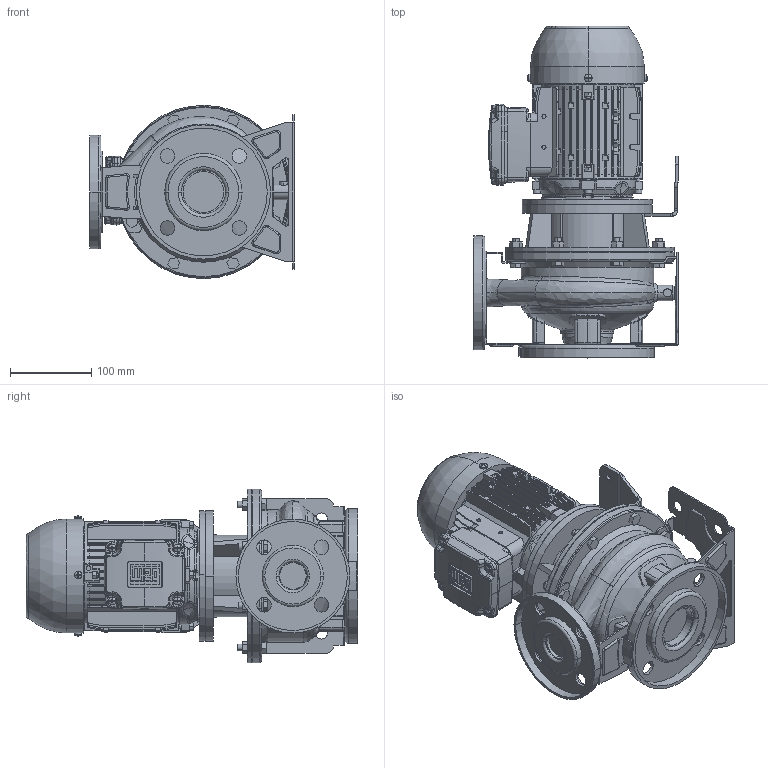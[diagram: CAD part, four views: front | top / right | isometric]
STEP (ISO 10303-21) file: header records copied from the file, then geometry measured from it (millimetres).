
FILE_DESCRIPTION (( 'STEP AP214' ), '1' );
FILE_NAME ('3LS4 32-125_0.25_(71)_W21.STEP', '2026-10-05T01:08:31', ( '' ), ( '' ), 'SwSTEP 2.0', 'SolidWorks 2024', '' );
FILE_SCHEMA (( 'AUTOMOTIVE_DESIGN' ));
Length unit declared in the file: inch
Products named in the file (3): 3SF4_32-125_0_25; 3LS4 32-125_0.25_(71)_W21; 71 ALIE3_W21_B5
Assembly tree (2 placements, depth 2):
  3LS4 32-125_0.25_(71)_W21
    3SF4_32-125_0_25
    71 ALIE3_W21_B5
Bounding box: 252 x 408 x 212.96 mm (x, y, z)
Volume: 5881951.5 mm3; surface area: 820028.7 mm2
Topology: 12 solids, 18 shells, 2743 faces, 7272 edges, 4724 vertices
Faces by surface type: plane 1671, cylinder 640, bspline 148, torus 119, cone 115, sphere 50
Entity records: 118152 total; most frequent: CARTESIAN_POINT 51036, ORIENTED_EDGE 14512, DIRECTION 13146, EDGE_CURVE 7256, VERTEX_POINT 4720, VECTOR 4578, LINE 4578, AXIS2_PLACEMENT_3D 4284
